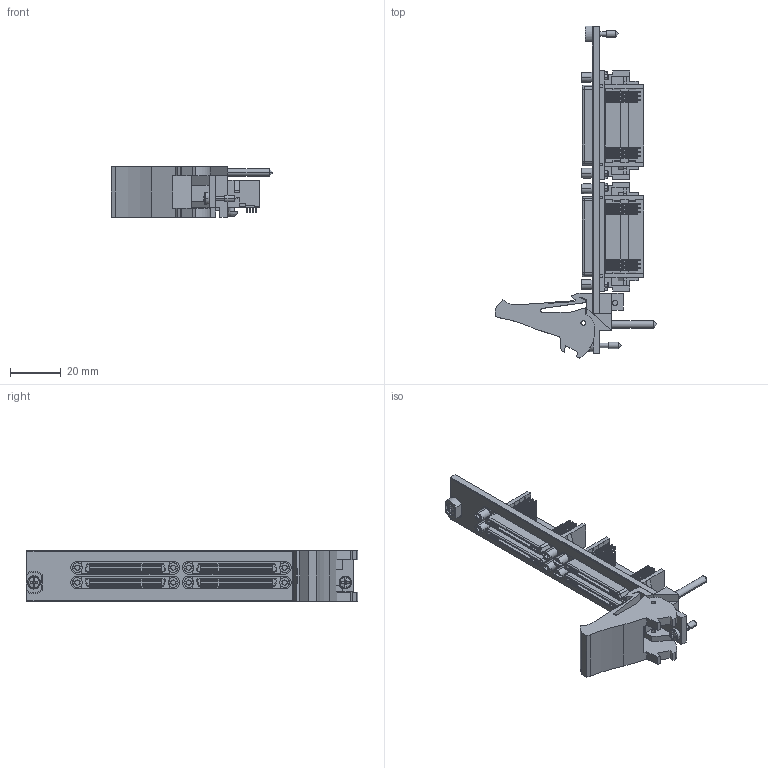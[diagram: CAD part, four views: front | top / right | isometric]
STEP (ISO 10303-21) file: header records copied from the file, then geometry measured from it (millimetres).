
FILE_DESCRIPTION((''),'2;1');
FILE_NAME('CU_PXI-2535','2009-10-06T',('jjorden'),(''),'PRO/ENGINEER BY PARAMETRIC TECHNOLOGY CORPORATION, 2006080','PRO/ENGINEER BY PARAMETRIC TECHNOLOGY CORPORATION, 2006080','');
FILE_SCHEMA(('CONFIG_CONTROL_DESIGN'));
Length unit declared in the file: inch
Products named in the file (1): CU_PXI-2535
Bounding box: 63.53 x 130.5 x 20.02 mm (x, y, z)
Volume: 18897.3 mm3; surface area: 25685.2 mm2
Topology: 1 solids, 1 shells, 5252 faces, 15046 edges, 9790 vertices
Faces by surface type: plane 4425, cylinder 745, cone 46, sphere 24, torus 6, bspline 6
Entity records: 170812 total; most frequent: CARTESIAN_POINT 31080, ORIENTED_EDGE 30076, DIRECTION 27200, EDGE_CURVE 15038, VECTOR 13258, LINE 13258, VERTEX_POINT 9809, AXIS2_PLACEMENT_3D 6971
